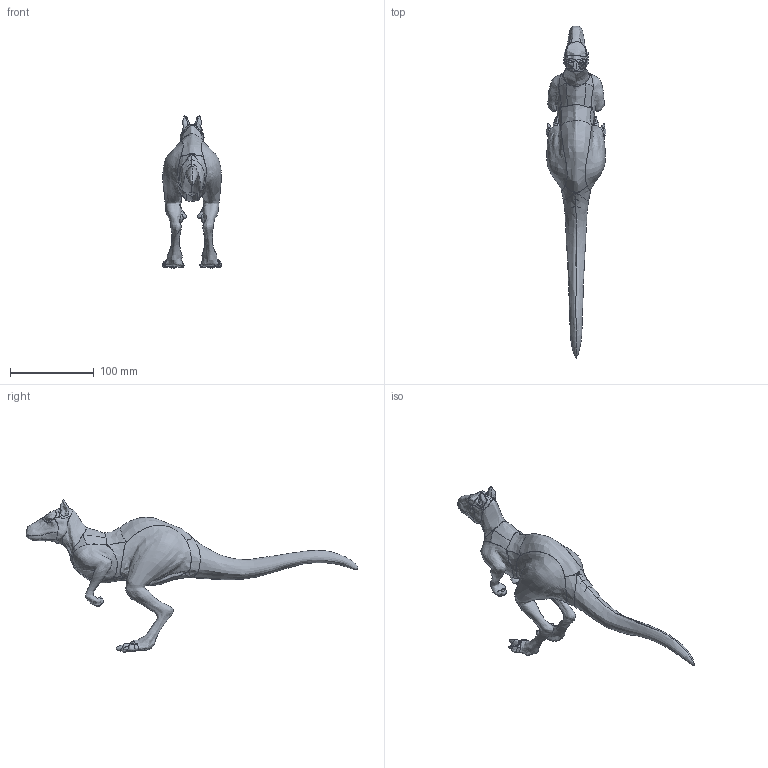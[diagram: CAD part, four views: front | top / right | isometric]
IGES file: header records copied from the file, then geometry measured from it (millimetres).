
Start section:  cyslice v2.6 2001/06/23 15:31:14
Global section: file name: all2.iges; native system: Unknown; preprocessor: 1.14; author: Unknown; organization: Unknown; date: 010625.102237; units: millimetre
Bounding box: 71.51 x 397.2 x 182.1 mm (x, y, z)
Surface area: 67641.5 mm2 (no closed solid volume)
Topology: 0 solids, 0 shells, 89 faces, 351 edges, 346 vertices
Faces by surface type: bspline 89
